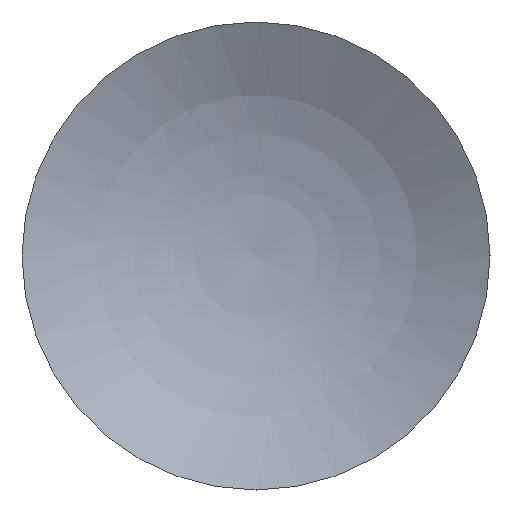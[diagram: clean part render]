
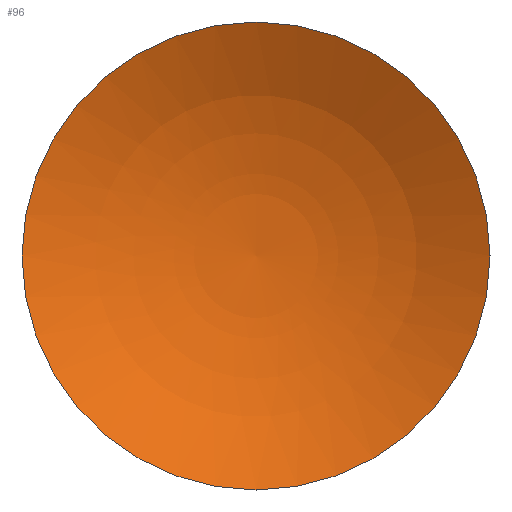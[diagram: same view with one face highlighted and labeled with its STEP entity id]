
A CAD part, front view. The second image highlights one B-rep face of the part: STEP entity #96.
In plain terms, the highlighted free-form (B-spline) face has degree [2, 2] with [3, 3] control points.
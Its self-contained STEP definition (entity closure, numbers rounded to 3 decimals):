
#68=CARTESIAN_POINT('',(8.763,-6.817,-10.0));
#69=CARTESIAN_POINT('',(11.411,-2.,0.0));
#70=CARTESIAN_POINT('',(8.763,-6.817,10.0));
#71=CARTESIAN_POINT('',(0.,-2.,-10.0));
#72=CARTESIAN_POINT('',(0.,4.272,0.0));
#73=CARTESIAN_POINT('',(0.,-2.,10.0));
#74=CARTESIAN_POINT('',(-8.763,-6.817,-10.0));
#75=CARTESIAN_POINT('',(-11.411,-2.,0.0));
#76=CARTESIAN_POINT('',(-8.763,-6.817,10.0));
#84=(BOUNDED_SURFACE()B_SPLINE_SURFACE(2,2,((#68,#71,#74),(#69,#72,#75),(#70,#73,#76)),.UNSPECIFIED.,.F.,.F.,.U.)B_SPLINE_SURFACE_WITH_KNOTS((3,3),(3,3),(-0.503,0.503),(0.0,1.005),.UNSPECIFIED.)GEOMETRIC_REPRESENTATION_ITEM()RATIONAL_B_SPLINE_SURFACE(((1.0,0.876,1.0),(0.876,0.768,0.876),(1.0,0.876,1.0)))REPRESENTATION_ITEM('')SURFACE());
#85=CARTESIAN_POINT('',(-10.0,-4.567,0.0));
#86=VERTEX_POINT('',#85);
#87=CARTESIAN_POINT('',(0.0,-4.567,0.0));
#88=DIRECTION('',(0.0,1.0,0.0));
#89=DIRECTION('',(-1.0,0.0,0.0));
#90=AXIS2_PLACEMENT_3D('',#87,#88,#89);
#91=CIRCLE('',#90,10.0);
#92=EDGE_CURVE('',#86,#86,#91,.T.);
#93=ORIENTED_EDGE('',*,*,#92,.F.);
#94=EDGE_LOOP('',(#93));
#95=FACE_OUTER_BOUND('',#94,.T.);
#96=ADVANCED_FACE('',(#95),#84,.T.);
